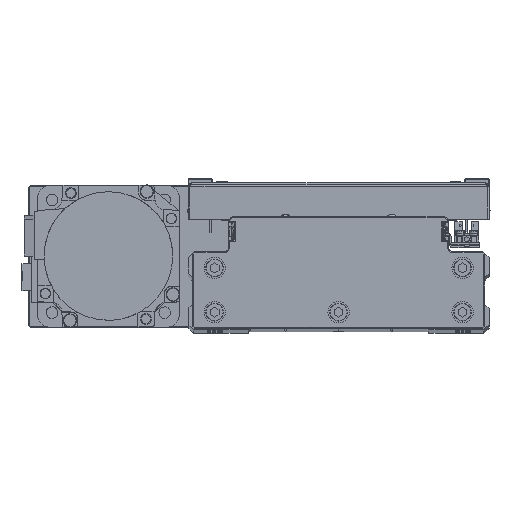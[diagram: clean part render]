
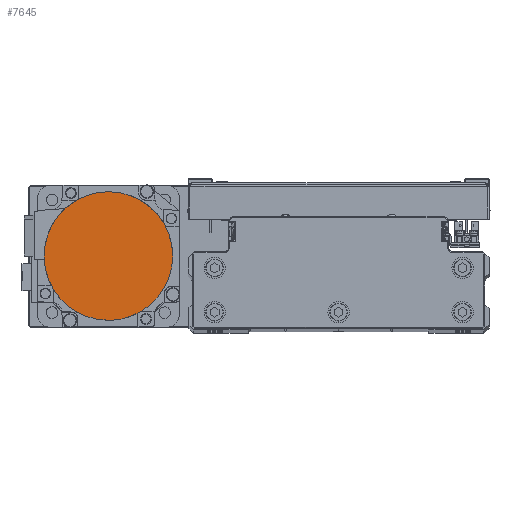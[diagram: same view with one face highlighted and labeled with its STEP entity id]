
A CAD part, top view. The second image highlights one B-rep face of the part: STEP entity #7645.
In plain terms, the highlighted planar face has unit normal (0, 0, 1) as drawn and (0, 0, -1) by its records, which use the part's own axes.
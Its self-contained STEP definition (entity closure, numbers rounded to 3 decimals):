
#68 = EDGE_CURVE ( 'NONE', #17663, #7850, #14984, .T. ) ;
#208 = CARTESIAN_POINT ( 'NONE',  ( -22.143, -28.862, -122.2 ) ) ;
#1549 = CARTESIAN_POINT ( 'NONE',  ( 0., 36.3, -122.2 ) ) ;
#1781 = CARTESIAN_POINT ( 'NONE',  ( -34.446, 11.696, -122.2 ) ) ;
#3661 = CARTESIAN_POINT ( 'NONE',  ( -28.862, -22.143, -122.2 ) ) ;
#3807 = ORIENTED_EDGE ( 'NONE', *, *, #42163, .F. ) ;
#5193 = CARTESIAN_POINT ( 'NONE',  ( -28.862, 22.143, -122.2 ) ) ;
#7073 = CARTESIAN_POINT ( 'NONE',  ( -34.446, -11.696, -122.2 ) ) ;
#7198 = EDGE_CURVE ( 'NONE', #7850, #14180, #14792, .T. ) ;
#7302 = CARTESIAN_POINT ( 'NONE',  ( 0., -36.3, -122.2 ) ) ;
#7645 = ADVANCED_FACE ( 'NONE', ( #30471 ), #44366, .F. ) ;
#7850 = VERTEX_POINT ( 'NONE', #42504 ) ;
#8643 = CARTESIAN_POINT ( 'NONE',  ( -22.143, 28.862, -122.2 ) ) ;
#9523 = B_SPLINE_CURVE_WITH_KNOTS ( 'NONE', 3,
 ( #1549, #15495, #29414, #43311, #12068, #26003, #39900, #8643, #22608, #36500, #5193, #19156, #33069, #1781, #15734, #29642, #43547, #12298 ),
 .UNSPECIFIED., .F., .F.,
 ( 4, 2, 2, 2, 2, 2, 2, 2, 4 ),
 ( 0., 0.125, 0.25, 0.375, 0.5, 0.625, 0.75, 0.875, 1. ),
 .UNSPECIFIED. ) ;
#10491 = CARTESIAN_POINT ( 'NONE',  ( -36.3, -2.376, -122.2 ) ) ;
#10548 = VERTEX_POINT ( 'NONE', #26216 ) ;
#10727 = CARTESIAN_POINT ( 'NONE',  ( -9.412, -35.139, -122.2 ) ) ;
#12068 = CARTESIAN_POINT ( 'NONE',  ( -11.696, 34.446, -122.2 ) ) ;
#12298 = CARTESIAN_POINT ( 'NONE',  ( -36.3, 0., -122.2 ) ) ;
#12762 = AXIS2_PLACEMENT_3D ( 'NONE', #25470, #13900, #27828 ) ;
#13109 = CARTESIAN_POINT ( 'NONE',  ( 0., 0., -122.2 ) ) ;
#13900 = DIRECTION ( 'NONE',  ( 0., 0., 1. ) ) ;
#14152 = CARTESIAN_POINT ( 'NONE',  ( -18.192, -31.502, -122.2 ) ) ;
#14180 = VERTEX_POINT ( 'NONE', #14774 ) ;
#14774 = CARTESIAN_POINT ( 'NONE',  ( 0., 36.3, -122.2 ) ) ;
#14792 = CIRCLE ( 'NONE', #40268, 36.3 ) ;
#14984 = CIRCLE ( 'NONE', #12762, 36.3 ) ;
#15495 = CARTESIAN_POINT ( 'NONE',  ( -2.376, 36.3, -122.2 ) ) ;
#15734 = CARTESIAN_POINT ( 'NONE',  ( -35.139, 9.412, -122.2 ) ) ;
#16204 = CARTESIAN_POINT ( 'NONE',  ( 0., 0., -122.2 ) ) ;
#17603 = CARTESIAN_POINT ( 'NONE',  ( -27.348, -23.988, -122.2 ) ) ;
#17663 = VERTEX_POINT ( 'NONE', #24485 ) ;
#19038 = EDGE_LOOP ( 'NONE', ( #26857, #3807, #27698, #20059 ) ) ;
#19156 = CARTESIAN_POINT ( 'NONE',  ( -31.502, 18.192, -122.2 ) ) ;
#20059 = ORIENTED_EDGE ( 'NONE', *, *, #7198, .F. ) ;
#21033 = CARTESIAN_POINT ( 'NONE',  ( -32.628, -16.086, -122.2 ) ) ;
#22608 = CARTESIAN_POINT ( 'NONE',  ( -23.988, 27.348, -122.2 ) ) ;
#24450 = CARTESIAN_POINT ( 'NONE',  ( -36.066, -4.752, -122.2 ) ) ;
#24485 = CARTESIAN_POINT ( 'NONE',  ( 0., -36.3, -122.2 ) ) ;
#24686 = CARTESIAN_POINT ( 'NONE',  ( -4.752, -36.066, -122.2 ) ) ;
#25470 = CARTESIAN_POINT ( 'NONE',  ( 0., 0., -122.2 ) ) ;
#26003 = CARTESIAN_POINT ( 'NONE',  ( -16.086, 32.628, -122.2 ) ) ;
#26216 = CARTESIAN_POINT ( 'NONE',  ( -36.3, 0., -122.2 ) ) ;
#26432 = B_SPLINE_CURVE_WITH_KNOTS ( 'NONE', 3,
 ( #41744, #10491, #24450, #38339, #7073, #21033, #34950, #3661, #17603, #31506, #208, #14152, #28092, #41979, #10727, #24686, #38569, #7302 ),
 .UNSPECIFIED., .F., .F.,
 ( 4, 2, 2, 2, 2, 2, 2, 2, 4 ),
 ( 0., 0.125, 0.25, 0.375, 0.5, 0.625, 0.75, 0.875, 1. ),
 .UNSPECIFIED. ) ;
#26857 = ORIENTED_EDGE ( 'NONE', *, *, #68, .F. ) ;
#27038 = DIRECTION ( 'NONE',  ( 0., 0., 1. ) ) ;
#27698 = ORIENTED_EDGE ( 'NONE', *, *, #42353, .F. ) ;
#27828 = DIRECTION ( 'NONE',  ( -1., 0., 0. ) ) ;
#28092 = CARTESIAN_POINT ( 'NONE',  ( -16.086, -32.628, -122.2 ) ) ;
#28670 = AXIS2_PLACEMENT_3D ( 'NONE', #13109, #27038, #40922 ) ;
#29414 = CARTESIAN_POINT ( 'NONE',  ( -4.752, 36.066, -122.2 ) ) ;
#29642 = CARTESIAN_POINT ( 'NONE',  ( -36.066, 4.752, -122.2 ) ) ;
#30119 = DIRECTION ( 'NONE',  ( 0., 0., 1. ) ) ;
#30471 = FACE_OUTER_BOUND ( 'NONE', #19038, .T. ) ;
#31506 = CARTESIAN_POINT ( 'NONE',  ( -23.988, -27.348, -122.2 ) ) ;
#33069 = CARTESIAN_POINT ( 'NONE',  ( -32.628, 16.086, -122.2 ) ) ;
#34950 = CARTESIAN_POINT ( 'NONE',  ( -31.502, -18.192, -122.2 ) ) ;
#36500 = CARTESIAN_POINT ( 'NONE',  ( -27.348, 23.988, -122.2 ) ) ;
#38339 = CARTESIAN_POINT ( 'NONE',  ( -35.139, -9.412, -122.2 ) ) ;
#38569 = CARTESIAN_POINT ( 'NONE',  ( -2.376, -36.3, -122.2 ) ) ;
#39900 = CARTESIAN_POINT ( 'NONE',  ( -18.192, 31.502, -122.2 ) ) ;
#40268 = AXIS2_PLACEMENT_3D ( 'NONE', #16204, #30119, #44019 ) ;
#40922 = DIRECTION ( 'NONE',  ( 1., 0., 0. ) ) ;
#41744 = CARTESIAN_POINT ( 'NONE',  ( -36.3, 0., -122.2 ) ) ;
#41979 = CARTESIAN_POINT ( 'NONE',  ( -11.696, -34.446, -122.2 ) ) ;
#42163 = EDGE_CURVE ( 'NONE', #10548, #17663, #26432, .T. ) ;
#42353 = EDGE_CURVE ( 'NONE', #14180, #10548, #9523, .T. ) ;
#42504 = CARTESIAN_POINT ( 'NONE',  ( 36.3, 0., -122.2 ) ) ;
#43311 = CARTESIAN_POINT ( 'NONE',  ( -9.412, 35.139, -122.2 ) ) ;
#43547 = CARTESIAN_POINT ( 'NONE',  ( -36.3, 2.376, -122.2 ) ) ;
#44019 = DIRECTION ( 'NONE',  ( -1., 0., 0. ) ) ;
#44366 = PLANE ( 'NONE',  #28670 ) ;
